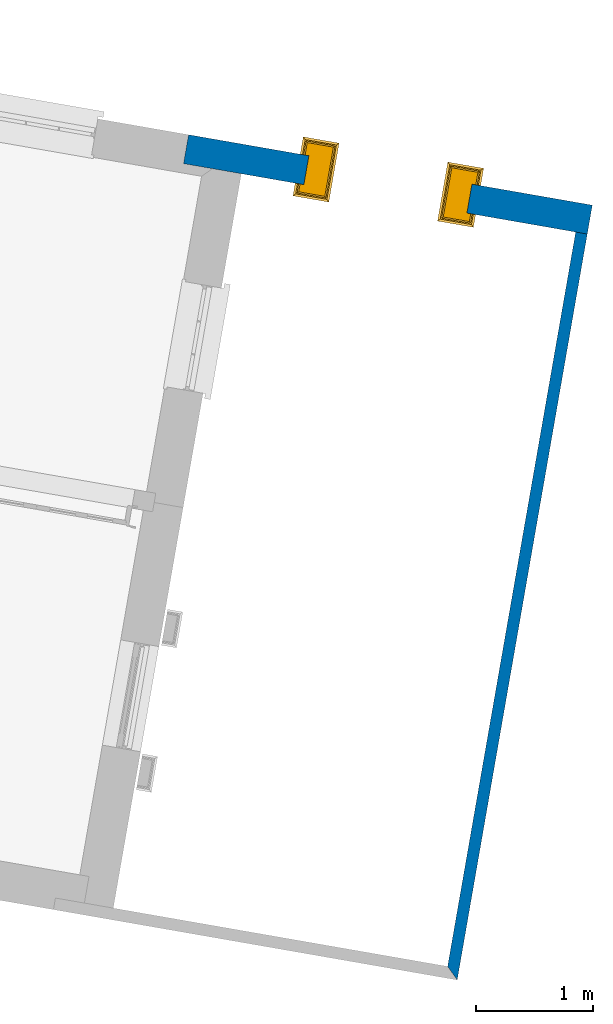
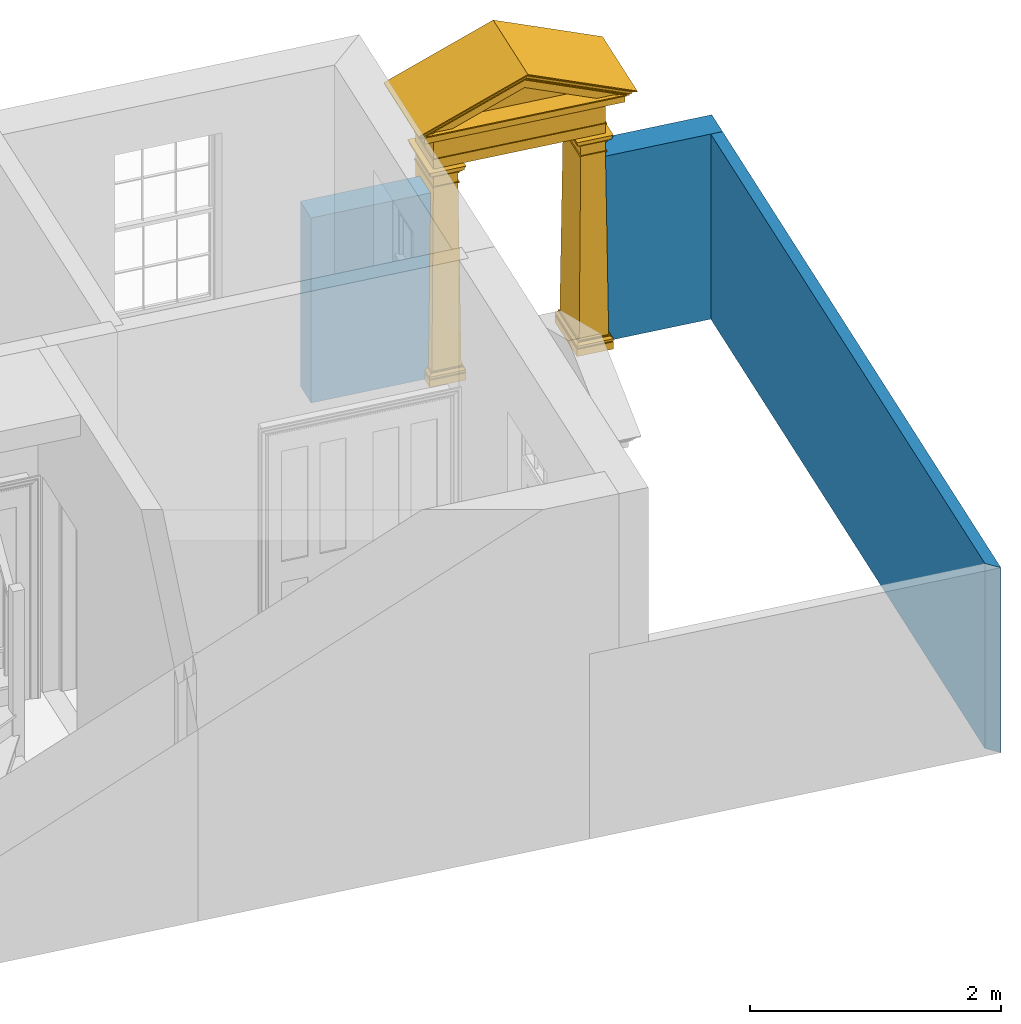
# One storey, part 5 of 6: 2 walls, 1 door, 1 opening.
"""IFC4 building model written with IfcOpenShell, lengths in metres."""

from ifc_helpers import new_model, si_unit, frame, origin, origin_with_axes, place, context, subcontext, project, spatial, polyline, outline, extrude, faceted_brep, source, transform, mapped, material, layer, layer_set, layer_usage, type_object, type_shapes, element, fill, save


model = new_model("IFC4")

# Units and contexts
model_context = context("Model", 3, world=origin_with_axes())
body_context = subcontext(model_context, "Body", "Model", "MODEL_VIEW")
ifc_project = project(units=[si_unit("PLANEANGLEUNIT", "RADIAN"), si_unit("MASSUNIT", "GRAM", prefix="KILO"), si_unit("FORCEUNIT", "NEWTON", prefix="KILO"), si_unit("LENGTHUNIT", "METRE"), si_unit("AREAUNIT", "SQUARE_METRE"), si_unit("VOLUMEUNIT", "CUBIC_METRE")], contexts=[model_context, model_context])

# Sites, building, storey
site_1_placement = place(None, origin_with_axes())
site_1 = spatial("IfcSite", under=ifc_project, at=site_1_placement, Name="Tamar")
site_2_placement = place(site_1_placement, origin_with_axes())
site_2 = spatial("IfcSite", under=site_1, at=site_2_placement, Name="Site plot-27", CompositionType="ELEMENT")
building_placement = place(None, origin_with_axes())
building = spatial("IfcBuilding", under=site_2, at=building_placement, Name="Building plot-27", CompositionType="ELEMENT")
storey_placement = place(None, frame((0.0, 0.0, 26.0), z_axis=(0.0, 0.0, 1.0), x_axis=(1.0, 0.0, 0.0)))
storey = spatial("IfcBuildingStorey", under=building, at=storey_placement, Name="plot-27 0", CompositionType="ELEMENT", Elevation=26.0)

# Wall
ifc_material_1 = material(Name="Masonry")
ifc_layer_1 = layer(ifc_material_1, 0.1, ventilated=False)
ifc_layer_set_1 = layer_set([ifc_layer_1], Name="fence_-0.15_0.25")
ifc_layer_usage_1 = layer_usage(ifc_layer_set_1, "AXIS2", "POSITIVE", -0.25)
wall_type_1 = type_object("IfcWallType", Name="fence_-0.15_0.25", PredefinedType="SOLIDWALL", material=ifc_layer_set_1)
wall_1_placement = place(storey_placement, frame((299.577726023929, 267.739716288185, 0.0), z_axis=(0.0, 0.0, 1.0), x_axis=(0.171788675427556, 0.985133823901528, 0.0)))
element("IfcWall", 1, at=wall_1_placement, inside=storey, type_object=wall_type_1, material=ifc_layer_usage_1, Name="fence", context=body_context, shape_type="SweptSolid", body=[
    extrude(outline(polyline([(-0.149999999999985, -0.150000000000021), (-0.25000000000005, -0.250000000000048), (6.45068539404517, -0.249999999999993), (6.45068539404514, -0.149999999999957), (-0.149999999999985, -0.150000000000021)])), origin_with_axes(), (0.0, 0.0, 1.0), 1.8),
])

# Wall, opening, door
ifc_material_2 = material(Name="Masonry")
ifc_layer_2 = layer(ifc_material_2, 0.25, ventilated=False)
ifc_layer_set_2 = layer_set([ifc_layer_2], Name="fence_0_0.25")
ifc_layer_usage_2 = layer_usage(ifc_layer_set_2, "AXIS2", "POSITIVE", -0.25)
wall_type_2 = type_object("IfcWallType", Name="fence_0_0.25", PredefinedType="SOLIDWALL", material=ifc_layer_set_2)
wall_2_placement = place(storey_placement, frame((300.642933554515, 273.848221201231, 0.0), z_axis=(0.0, 0.0, 1.0), x_axis=(-0.985133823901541, 0.171788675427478, 0.0)))
wall_2 = element("IfcWall", 2, at=wall_2_placement, inside=storey, type_object=wall_type_2, material=ifc_layer_usage_2, Name="fence", context=body_context, shape_type="SweptSolid", body=[
    extrude(outline(polyline([(-0.250000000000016, -2.58412912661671e-15), (-0.250000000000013, -0.250000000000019), (3.24149931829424, -0.250000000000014), (3.24149931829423, 2.87902974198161e-15), (-0.250000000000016, -2.58412912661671e-15)])), origin_with_axes(), (0.0, 0.0, 1.0), 1.8),
])
opening_placement = place(wall_2_placement, frame((0.790749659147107, 0.0, -0.0100000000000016)))
opening = element("IfcOpeningElement", 3, at=opening_placement, cuts=wall_2, Name="My Opening", ObjectType="Opening", context=body_context, shape_type="SweptSolid", body=[
    extrude(outline(polyline([(0.0, -0.269999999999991), (1.40999999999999, -0.269999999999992), (1.41000000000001, 1.01999999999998), (1.89848137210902e-14, 1.01999999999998), (0.0, -0.269999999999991)])), origin_with_axes(), (0.0, 0.0, 1.0), 1.81),
])
door_type = type_object("IfcDoorType", Name="gate", OperationType="SINGLE_SWING_LEFT", PredefinedType="NOTDEFINED")
shared_shape = source(origin(), body_context, "Body", "Brep", [
    faceted_brep([(1.565, 0.25, 2.5), (1.565, -0.21, 2.5), (1.565, -0.21, 2.49), (1.565, 0.25, 2.49), (1.445, -0.09, 2.01), (1.215, -0.09, 2.01), (1.215, -0.09, 2.0), (1.445, -0.09, 2.0), (-0.035, -0.09, 2.180001), (-0.025, -0.08, 2.180001), (-0.025, 0.25, 2.180001), (-0.035, 0.25, 2.180001), (-0.025, -0.08, 2.170001), (-0.035, -0.09, 2.170001), (-0.035, 0.25, 2.170001), (-0.025, 0.25, 2.170001), (1.445, -0.09, 2.180001), (1.435, -0.08, 2.180001), (-0.025, -0.08, 2.37), (-0.025, 0.25, 2.37), (1.435, -0.08, 2.170001), (1.445, -0.09, 2.170001), (-0.025, -0.08, 2.08), (-0.025, 0.25, 2.08), (1.445, 0.25, 2.180001), (1.435, 0.25, 2.180001), (1.435, -0.08, 2.37), (-0.035, -0.09, 2.37), (-0.035, 0.25, 2.37), (1.435, 0.25, 2.37), (1.445, 0.25, 2.170001), (1.435, 0.25, 2.170001), (0.235, -0.08, 2.08), (0.235, 0.25, 2.08), (1.175, 0.25, 2.08), (1.175, -0.08, 2.08), (-0.075, 0.25, 2.08), (-0.075, -0.13, 2.08), (1.445, -0.09, 2.37), (-0.035, -0.09, 2.380001), (-0.035, 0.25, 2.380001), (1.445, 0.25, 2.37), (1.435, -0.08, 2.08), (1.435, 0.25, 2.08), (0.235, 0.38, 2.07), (0.235, 0.38, 2.08), (0.235, 0.33, 2.08), (0.235, -0.13, 2.08), (-0.075, 0.25, 2.07), (-0.075, -0.13, 2.07), (1.445, -0.09, 2.380001), (-0.045, -0.1, 2.39), (-0.045, 0.25, 2.39), (1.455, 0.25, 2.39), (1.455, -0.1, 2.39), (1.445, 0.25, 2.380001), (1.485, -0.13, 2.08), (1.485, 0.25, 2.08), (0.235, -0.13, 2.07), (1.175, -0.13, 2.08), (-0.065, 0.25, 2.07), (-0.065, -0.12, 2.07), (-0.055, -0.11, 2.39), (-0.055, 0.25, 2.39), (1.465, 0.25, 2.39), (1.465, -0.11, 2.39), (1.485, 0.25, 2.07), (1.485, -0.13, 2.07), (0.225, 0.25, 2.07), (0.235, 0.25, 2.07), (0.225, -0.12, 2.07), (-0.065, 0.25, 2.04), (-0.065, -0.12, 2.04), (1.475, 0.25, 2.07), (1.475, -0.12, 2.07), (1.175, 0.25, 2.07), (1.185, 0.25, 2.07), (1.185, -0.12, 2.07), (1.175, -0.13, 2.07), (1.175, 0.33, 2.08), (1.175, 0.38, 2.07), (-0.055, -0.11, 2.4), (-0.055, 0.25, 2.4), (1.465, 0.25, 2.4), (1.465, -0.11, 2.4), (0.225, 0.25, 2.04), (0.225, -0.12, 2.04), (-0.055, 0.25, 2.04), (-0.055, -0.11, 2.04), (1.475, 0.25, 2.04), (1.475, -0.12, 2.04), (1.185, 0.25, 2.04), (1.195, 0.25, 2.04), (1.195, -0.11, 2.04), (1.185, -0.12, 2.04), (-0.065, -0.12, 2.4), (-0.065, 0.25, 2.4), (-0.085, -0.14, 2.42), (-0.085, 0.25, 2.42), (-0.085, -0.14, 2.43), (-0.085, 0.25, 2.43), (1.495, 0.25, 2.43), (1.495, -0.14, 2.43), (1.495, -0.14, 2.42), (1.495, 0.25, 2.42), (1.475, 0.25, 2.4), (1.475, -0.12, 2.4), (0.215, 0.25, 2.04), (0.215, -0.11, 2.04), (-0.055, 0.25, 2.03), (-0.055, -0.11, 2.03), (0.215, 0.25, 2.03), (0.215, -0.11, 2.03), (1.465, 0.25, 2.04), (1.465, -0.11, 2.04), (1.195, 0.25, 2.03), (1.195, -0.11, 2.03), (1.465, 0.25, 2.03), (1.465, -0.11, 2.03), (-0.145, -0.2, 2.43), (-0.145, 0.25, 2.43), (1.555, 0.25, 2.43), (1.555, -0.2, 2.43), (-0.035, 0.25, 2.01), (-0.035, -0.09, 2.01), (0.195, 0.25, 2.01), (0.195, -0.09, 2.01), (1.215, 0.25, 2.01), (1.445, 0.25, 2.01), (-0.145, -0.2, 2.49), (-0.145, 0.25, 2.49), (1.555, 0.25, 2.49), (1.555, -0.2, 2.49), (-0.035, 0.25, 2.0), (-0.035, -0.09, 2.0), (0.195, 0.25, 2.0), (0.195, -0.09, 2.0), (1.215, 0.25, 2.0), (1.445, 0.25, 2.0), (-0.155, -0.21, 2.49), (-0.155, 0.25, 2.49), (-0.155, -0.21, 2.5), (-0.155, 0.25, 2.5), (-0.165, -0.22, 2.51), (-0.165, 0.25, 2.51), (1.575, 0.25, 2.51), (1.575, -0.22, 2.51), (-0.025, -0.08, 2.0), (-0.025, 0.25, 2.0), (0.185, -0.08, 2.0), (0.185, 0.25, 2.0), (-0.025, 0.25, 1.91), (-0.025, -0.08, 1.91), (0.185, 0.25, 1.91), (0.185, -0.08, 1.91), (1.225, 0.25, 2.0), (1.225, -0.08, 2.0), (1.435, -0.08, 2.0), (1.435, 0.25, 2.0), (1.435, 0.25, 1.91), (1.435, -0.08, 1.91), (1.225, 0.25, 1.91), (1.225, -0.08, 1.91), (-0.175, -0.23, 2.51), (-0.175, 0.25, 2.51), (1.585, 0.25, 2.51), (1.585, -0.23, 2.51), (-0.035, 0.25, 1.91), (-0.035, -0.09, 1.91), (0.195, -0.09, 1.91), (0.195, 0.25, 1.91), (1.445, -0.09, 1.91), (1.445, 0.25, 1.91), (1.215, -0.09, 1.91), (1.215, 0.25, 1.91), (-0.175, -0.23, 2.52), (-0.175, 0.25, 2.52), (1.585, 0.25, 2.52), (1.585, -0.23, 2.52), (-0.035, 0.25, 1.9), (-0.035, -0.09, 1.9), (0.195, 0.25, 1.9), (0.195, -0.09, 1.9), (-0.025, -0.08, 1.9), (-0.025, 0.25, 1.9), (0.185, -0.08, 1.9), (0.185, 0.25, 1.9), (-0.045, 0.25, 0.13), (-0.045, -0.1, 0.13), (0.205, 0.25, 0.13), (0.205, -0.1, 0.13), (1.445, -0.09, 1.9), (1.445, 0.25, 1.9), (1.435, -0.08, 1.9), (1.435, 0.25, 1.9), (1.455, -0.1, 0.13), (1.455, 0.25, 0.13), (1.225, 0.25, 1.9), (1.205, 0.25, 0.13), (1.205, -0.1, 0.13), (1.225, -0.08, 1.9), (1.215, -0.09, 1.9), (1.215, 0.25, 1.9), (-0.185, -0.24, 2.526), (-0.185, 0.25, 2.526), (-0.150858, -0.23, 2.52), (1.560858, -0.23, 2.52), (-0.195, -0.25, 2.551001), (-0.195, 0.25, 2.551001), (-0.223, 0.25, 2.561001), (-0.223, -0.278, 2.561001), (1.633, -0.278, 2.561001), (1.605, -0.25, 2.551001), (1.605, 0.25, 2.551001), (1.633, 0.25, 2.561001), (1.595, 0.25, 2.526), (1.595, -0.24, 2.526), (-0.055, 0.25, 0.13), (-0.055, -0.11, 0.13), (0.215, 0.25, 0.13), (0.215, -0.11, 0.13), (1.465, -0.11, 0.13), (1.465, 0.25, 0.13), (1.195, 0.25, 0.13), (1.195, -0.11, 0.13), (0.705, -0.23, 2.884508), (0.705, -0.24, 2.89465), (0.705, -0.23, 2.874508), (1.486538, -0.21, 2.522499), (-0.076538, -0.21, 2.522499), (0.705, -0.25, 2.923792), (0.705, -0.278, 2.945389), (-0.223, -0.278, 2.571001), (-0.223, 0.25, 2.571001), (1.633, 0.25, 2.571001), (1.633, -0.278, 2.571001), (-0.055, 0.25, 0.12), (-0.055, -0.11, 0.12), (0.215, 0.25, 0.12), (0.215, -0.11, 0.12), (-0.075, 0.25, 0.1), (-0.075, -0.13, 0.1), (0.235, 0.25, 0.1), (0.235, -0.13, 0.1), (1.465, 0.25, 0.12), (1.465, -0.11, 0.12), (1.485, 0.25, 0.1), (1.485, -0.13, 0.1), (1.195, 0.25, 0.12), (1.175, 0.25, 0.1), (1.175, -0.13, 0.1), (1.195, -0.11, 0.12), (-0.13784, -0.22, 2.52125), (0.705, -0.22, 2.870365), (1.51068, -0.21, 2.522499), (1.54784, -0.22, 2.52125), (1.316733, -0.2, 2.523749), (0.093267, -0.2, 2.523749), (-0.10068, -0.21, 2.522499), (0.705, -0.278, 2.955389), (0.705, 0.25, 2.955389), (-0.075, 0.25, 0.08), (-0.075, -0.13, 0.08), (0.235, 0.25, 0.08), (0.235, -0.13, 0.08), (1.485, -0.13, 0.08), (1.485, 0.25, 0.08), (1.175, 0.25, 0.08), (1.175, -0.13, 0.08), (0.705, -0.21, 2.856223), (0.705, -0.21, 2.846222), (1.272495, -0.14, 2.53125), (0.137505, -0.14, 2.53125), (-0.06352, -0.2, 2.523749), (1.47352, -0.2, 2.523749), (-0.065, 0.25, 0.07), (-0.065, -0.12, 0.07), (0.225, 0.25, 0.07), (0.225, -0.12, 0.07), (1.475, 0.25, 0.07), (1.475, -0.12, 0.07), (1.185, 0.25, 0.07), (1.185, -0.12, 0.07), (0.705, -0.2, 2.842082), (1.298626, -0.14, 2.53125), (1.214197, -0.12, 2.533749), (0.195803, -0.12, 2.533749), (0.111374, -0.14, 2.53125), (0.705, -0.2, 2.777137), (-0.075, 0.25, 0.07), (-0.075, -0.13, 0.07), (0.235, -0.13, 0.07), (0.235, 0.25, 0.07), (0.235, -0.13, 0.0), (-0.075, -0.13, 0.0), (-0.075, 0.25, 0.0), (0.235, 0.25, 0.0), (1.485, -0.13, 0.07), (1.485, 0.25, 0.07), (1.485, -0.13, 0.0), (1.175, -0.13, 0.0), (1.175, 0.25, 0.0), (1.485, 0.25, 0.0), (1.175, -0.13, 0.07), (1.175, 0.25, 0.07), (0.705, -0.14, 2.766314), (0.705, -0.14, 2.777137), (0.705, -0.12, 2.744666), (1.185048, -0.11, 2.535), (0.224952, -0.11, 2.535), (0.705, -0.11, 2.744666), (1.211179, -0.11, 2.535), (1.12675, -0.09, 2.537501), (0.28325, -0.09, 2.537501), (0.198821, -0.11, 2.535), (0.705, -0.11, 2.733843), (1.152881, -0.09, 2.537501), (1.18203, -0.1, 2.536251), (0.286268, -0.08, 2.538751), (1.123732, -0.08, 2.538751), (0.22797, -0.1, 2.536251), (0.257119, -0.09, 2.537501), (0.705, -0.1, 2.733843), (0.705, -0.09, 2.712194), (0.705, -0.09, 2.723017), (0.705, -0.08, 2.712194), (-0.155, 0.46, 2.5), (-0.155, 0.46, 2.49), (-0.035, 0.34, 2.01), (0.195, 0.34, 2.01), (0.195, 0.34, 2.0), (-0.035, 0.34, 2.0), (1.445, 0.34, 2.180001), (1.435, 0.33, 2.180001), (1.435, 0.33, 2.170001), (1.445, 0.34, 2.170001), (-0.035, 0.34, 2.180001), (-0.025, 0.33, 2.180001), (1.435, 0.33, 2.37), (-0.025, 0.33, 2.170001), (-0.035, 0.34, 2.170001), (1.435, 0.33, 2.08), (-0.025, 0.33, 2.37), (1.445, 0.34, 2.37), (1.485, 0.38, 2.08), (-0.035, 0.34, 2.37), (1.445, 0.34, 2.380001), (-0.025, 0.33, 2.08), (1.175, 0.38, 2.08), (1.485, 0.38, 2.07), (-0.035, 0.34, 2.380001), (1.455, 0.35, 2.39), (-0.045, 0.35, 2.39), (-0.075, 0.38, 2.08), (1.475, 0.37, 2.07), (1.465, 0.36, 2.39), (-0.055, 0.36, 2.39), (-0.075, 0.38, 2.07), (1.185, 0.37, 2.07), (1.475, 0.37, 2.04), (-0.065, 0.37, 2.07), (0.225, 0.37, 2.07), (1.465, 0.36, 2.4), (-0.055, 0.36, 2.4), (1.185, 0.37, 2.04), (1.465, 0.36, 2.04), (-0.065, 0.37, 2.04), (0.215, 0.36, 2.04), (0.225, 0.37, 2.04), (1.475, 0.37, 2.4), (1.495, 0.39, 2.42), (1.495, 0.39, 2.43), (-0.085, 0.39, 2.43), (-0.085, 0.39, 2.42), (-0.065, 0.37, 2.4), (1.195, 0.36, 2.04), (1.465, 0.36, 2.03), (1.195, 0.36, 2.03), (-0.055, 0.36, 2.04), (0.215, 0.36, 2.03), (-0.055, 0.36, 2.03), (1.555, 0.45, 2.43), (-0.145, 0.45, 2.43), (1.445, 0.34, 2.01), (1.215, 0.34, 2.01), (1.555, 0.45, 2.49), (-0.145, 0.45, 2.49), (1.445, 0.34, 2.0), (1.215, 0.34, 2.0), (1.565, 0.46, 2.49), (1.565, 0.46, 2.5), (1.575, 0.47, 2.51), (-0.165, 0.47, 2.51), (1.435, 0.33, 2.0), (1.225, 0.33, 2.0), (1.435, 0.33, 1.91), (1.225, 0.33, 1.91), (0.185, 0.33, 2.0), (-0.025, 0.33, 2.0), (-0.025, 0.33, 1.91), (0.185, 0.33, 1.91), (1.585, 0.48, 2.51), (-0.175, 0.48, 2.51), (1.445, 0.34, 1.91), (1.215, 0.34, 1.91), (-0.035, 0.34, 1.91), (0.195, 0.34, 1.91), (1.585, 0.48, 2.52), (-0.175, 0.48, 2.52), (1.445, 0.34, 1.9), (1.215, 0.34, 1.9), (1.435, 0.33, 1.9), (1.225, 0.33, 1.9), (1.455, 0.35, 0.13), (1.205, 0.35, 0.13), (-0.035, 0.34, 1.9), (-0.025, 0.33, 1.9), (-0.045, 0.35, 0.13), (0.205, 0.35, 0.13), (0.185, 0.33, 1.9), (0.195, 0.34, 1.9), (1.595, 0.49, 2.526), (1.560858, 0.48, 2.52), (-0.150858, 0.48, 2.52), (1.605, 0.5, 2.551001), (1.633, 0.528, 2.561001), (-0.223, 0.528, 2.561001), (-0.195, 0.5, 2.551001), (-0.185, 0.49, 2.526), (1.465, 0.36, 0.13), (1.195, 0.36, 0.13), (-0.055, 0.36, 0.13), (0.215, 0.36, 0.13), (0.705, 0.48, 2.884508), (0.705, 0.49, 2.89465), (0.705, 0.48, 2.874508), (-0.076538, 0.46, 2.522499), (1.486538, 0.46, 2.522499), (0.705, 0.5, 2.923792), (0.705, 0.528, 2.945389), (1.633, 0.528, 2.571001), (-0.223, 0.528, 2.571001), (1.465, 0.36, 0.12), (1.195, 0.36, 0.12), (1.485, 0.38, 0.1), (1.175, 0.38, 0.1), (-0.055, 0.36, 0.12), (-0.075, 0.38, 0.1), (0.235, 0.38, 0.1), (0.215, 0.36, 0.12), (1.54784, 0.47, 2.52125), (0.705, 0.47, 2.870365), (-0.10068, 0.46, 2.522499), (-0.13784, 0.47, 2.52125), (0.093267, 0.45, 2.523749), (1.316733, 0.45, 2.523749), (1.51068, 0.46, 2.522499), (0.705, 0.528, 2.955389), (1.485, 0.38, 0.08), (1.175, 0.38, 0.08), (-0.075, 0.38, 0.08), (0.235, 0.38, 0.08), (0.705, 0.46, 2.856223), (0.705, 0.46, 2.846222), (0.137505, 0.39, 2.53125), (1.272495, 0.39, 2.53125), (1.47352, 0.45, 2.523749), (-0.06352, 0.45, 2.523749), (1.475, 0.37, 0.07), (1.185, 0.37, 0.07), (-0.065, 0.37, 0.07), (0.225, 0.37, 0.07), (0.705, 0.45, 2.842082), (0.111374, 0.39, 2.53125), (0.195803, 0.37, 2.533749), (1.214197, 0.37, 2.533749), (1.298626, 0.39, 2.53125), (0.705, 0.45, 2.777137), (1.485, 0.38, 0.07), (1.175, 0.38, 0.07), (1.175, 0.38, 0.0), (1.485, 0.38, 0.0), (-0.075, 0.38, 0.07), (-0.075, 0.38, 0.0), (0.235, 0.38, 0.0), (0.235, 0.38, 0.07), (0.705, 0.39, 2.766314), (0.705, 0.39, 2.777137), (0.705, 0.37, 2.744666), (0.224952, 0.36, 2.535), (1.185048, 0.36, 2.535), (0.705, 0.36, 2.744666), (0.198821, 0.36, 2.535), (0.28325, 0.34, 2.537501), (1.12675, 0.34, 2.537501), (1.211179, 0.36, 2.535), (0.705, 0.36, 2.733843), (0.257119, 0.34, 2.537501), (0.22797, 0.35, 2.536251), (1.123732, 0.33, 2.538751), (0.286268, 0.33, 2.538751), (1.18203, 0.35, 2.536251), (1.152881, 0.34, 2.537501), (0.705, 0.35, 2.733843), (0.705, 0.34, 2.723017), (0.705, 0.34, 2.712194), (0.705, 0.33, 2.712194)], [[[0, 1, 2, 3]], [[4, 5, 6, 7]], [[8, 9, 10, 11]], [[12, 13, 14, 15]], [[13, 8, 11, 14]], [[9, 8, 16, 17]], [[9, 18, 19, 10]], [[13, 12, 20, 21]], [[22, 12, 15, 23]], [[8, 13, 21, 16]], [[17, 16, 24, 25]], [[18, 9, 17, 26]], [[27, 28, 19, 18]], [[26, 17, 25, 29]], [[16, 21, 30, 24]], [[21, 20, 31, 30]], [[32, 33, 34, 35]], [[12, 32, 35, 20]], [[12, 22, 32]], [[22, 23, 36, 37]], [[27, 18, 26, 38]], [[39, 40, 28, 27]], [[41, 38, 26, 29]], [[20, 42, 43, 31]], [[44, 45, 46]], [[42, 20, 35]], [[37, 47, 32, 22]], [[36, 48, 49, 37]], [[39, 27, 38, 50]], [[51, 52, 40, 39]], [[53, 54, 50, 55]], [[55, 50, 38, 41]], [[43, 42, 56, 57]], [[32, 47, 58]], [[59, 56, 42, 35]], [[58, 47, 37, 49]], [[48, 60, 61, 49]], [[51, 39, 50, 54]], [[62, 63, 52, 51]], [[64, 65, 54, 53]], [[66, 57, 56, 67]], [[68, 69, 58, 70]], [[60, 71, 72, 61]], [[73, 66, 67, 74]], [[75, 76, 77, 78]], [[34, 79, 80, 75]], [[59, 78, 67, 56]], [[61, 70, 58, 49]], [[62, 51, 54, 65]], [[81, 82, 63, 62]], [[83, 84, 65, 64]], [[85, 68, 70, 86]], [[71, 87, 88, 72]], [[86, 70, 61, 72]], [[77, 74, 67, 78]], [[89, 73, 74, 90]], [[91, 92, 93, 94]], [[76, 91, 94, 77]], [[81, 62, 65, 84]], [[95, 96, 82, 81]], [[97, 98, 96, 95]], [[99, 100, 98, 97]], [[101, 102, 103, 104]], [[105, 106, 84, 83]], [[104, 103, 106, 105]], [[107, 85, 86, 108]], [[87, 109, 110, 88]], [[88, 108, 86, 72]], [[111, 107, 108, 112]], [[77, 94, 90, 74]], [[113, 89, 90, 114]], [[92, 115, 116, 93]], [[93, 114, 90, 94]], [[117, 113, 114, 118]], [[95, 81, 84, 106]], [[97, 95, 106, 103]], [[119, 120, 100, 99]], [[99, 97, 103, 102]], [[121, 122, 102, 101]], [[109, 123, 124, 110]], [[112, 108, 88, 110]], [[125, 111, 112, 126]], [[115, 127, 5, 116]], [[93, 116, 118, 114]], [[128, 117, 118, 4]], [[129, 130, 120, 119]], [[119, 99, 102, 122]], [[131, 132, 122, 121]], [[123, 133, 134, 124]], [[110, 124, 126, 112]], [[135, 125, 126, 136]], [[127, 137, 6, 5]], [[4, 118, 116, 5]], [[138, 128, 4, 7]], [[139, 140, 130, 129]], [[129, 119, 122, 132]], [[141, 142, 140, 139]], [[143, 144, 142, 141]], [[145, 146, 1, 0]], [[3, 2, 132, 131]], [[147, 134, 133, 148]], [[126, 124, 134, 136]], [[135, 136, 149, 150]], [[148, 151, 152, 147]], [[153, 150, 149, 154]], [[6, 137, 155, 156]], [[7, 157, 158, 138]], [[159, 158, 157, 160]], [[155, 161, 162, 156]], [[139, 129, 132, 2]], [[141, 139, 2, 1]], [[163, 164, 144, 143]], [[143, 141, 1, 146]], [[165, 166, 146, 145]], [[147, 149, 136, 134]], [[167, 168, 152, 151]], [[147, 152, 154, 149]], [[154, 169, 170, 153]], [[156, 157, 7, 6]], [[160, 157, 156, 162]], [[171, 172, 159, 160]], [[173, 162, 161, 174]], [[175, 176, 164, 163]], [[163, 143, 146, 166]], [[177, 178, 166, 165]], [[179, 180, 168, 167]], [[154, 152, 168, 169]], [[181, 170, 169, 182]], [[183, 180, 179, 184]], [[181, 182, 185, 186]], [[184, 187, 188, 183]], [[189, 186, 185, 190]], [[160, 162, 173, 171]], [[191, 192, 172, 171]], [[191, 193, 194, 192]], [[193, 195, 196, 194]], [[197, 198, 199, 200]], [[201, 202, 197, 200]], [[174, 202, 201, 173]], [[203, 204, 176, 175]], [[175, 163, 205]], [[163, 166, 206, 205]], [[207, 208, 204, 203]], [[209, 208, 207, 210]], [[211, 212, 213, 214]], [[215, 216, 178, 177]], [[213, 212, 216, 215]], [[178, 206, 166]], [[180, 182, 169, 168]], [[183, 185, 182, 180]], [[187, 217, 218, 188]], [[183, 188, 190, 185]], [[219, 189, 190, 220]], [[201, 191, 171, 173]], [[200, 193, 191, 201]], [[195, 193, 200, 199]], [[195, 221, 222, 196]], [[198, 223, 224, 199]], [[175, 225, 226, 203]], [[225, 175, 205, 227]], [[205, 206, 228, 229]], [[203, 226, 230, 207]], [[207, 230, 231, 210]], [[232, 233, 209, 210]], [[234, 235, 211, 214]], [[231, 230, 212, 211]], [[216, 226, 225, 178]], [[212, 230, 226, 216]], [[227, 206, 178, 225]], [[217, 236, 237, 218]], [[220, 190, 188, 218]], [[238, 219, 220, 239]], [[236, 240, 241, 237]], [[242, 238, 239, 243]], [[221, 195, 199, 224]], [[244, 222, 221, 245]], [[246, 244, 245, 247]], [[248, 249, 250, 251]], [[223, 248, 251, 224]], [[227, 205, 252, 253]], [[254, 228, 206, 255]], [[256, 257, 229, 228]], [[252, 205, 229, 258]], [[231, 259, 232, 210]], [[260, 233, 232, 259]], [[234, 260, 259, 235]], [[259, 231, 211, 235]], [[253, 255, 206, 227]], [[239, 220, 218, 237]], [[261, 262, 241, 240]], [[243, 239, 237, 241]], [[263, 242, 243, 264]], [[224, 251, 245, 221]], [[251, 250, 247, 245]], [[265, 266, 246, 247]], [[249, 267, 268, 250]], [[253, 252, 258, 269]], [[270, 228, 254, 269]], [[269, 254, 255, 253]], [[256, 271, 272, 257]], [[273, 229, 257]], [[274, 256, 228]], [[269, 258, 229, 270]], [[261, 275, 276, 262]], [[264, 243, 241, 262]], [[277, 263, 264, 278]], [[250, 268, 265, 247]], [[279, 266, 265, 280]], [[267, 281, 282, 268]], [[283, 274, 228, 270]], [[284, 271, 256]], [[271, 285, 286, 272]], [[287, 257, 272]], [[270, 229, 273, 283]], [[283, 273, 257, 288]], [[288, 256, 274, 283]], [[289, 290, 276, 275]], [[262, 276, 278, 264]], [[278, 291, 292, 277]], [[293, 294, 295, 296]], [[280, 265, 268, 282]], [[297, 298, 279, 280]], [[299, 300, 301, 302]], [[303, 282, 281, 304]], [[305, 271, 284, 306]], [[306, 284, 256, 288]], [[307, 285, 271, 305]], [[285, 308, 309, 286]], [[305, 272, 286, 307]], [[288, 257, 287, 306]], [[306, 287, 272, 305]], [[289, 295, 294, 290]], [[278, 276, 290, 291]], [[296, 292, 291, 293]], [[290, 294, 293, 291]], [[280, 282, 303, 297]], [[302, 298, 297, 299]], [[299, 297, 303, 300]], [[304, 301, 300, 303]], [[310, 311, 285, 307]], [[311, 308, 285]], [[308, 312, 313, 309]], [[314, 286, 309]], [[307, 286, 314, 310]], [[315, 308, 311, 310]], [[316, 312, 308, 317]], [[318, 313, 312, 319]], [[320, 309, 313, 321]], [[310, 314, 309, 315]], [[322, 317, 308, 315]], [[323, 312, 316, 324]], [[324, 316, 317, 322]], [[323, 313, 318, 325]], [[325, 319, 312, 323]], [[325, 318, 319]], [[315, 309, 320, 322]], [[324, 321, 313, 323]], [[322, 320, 321, 324]], [[142, 326, 327, 140]], [[328, 329, 330, 331]], [[332, 333, 25, 24]], [[334, 335, 30, 31]], [[335, 332, 24, 30]], [[333, 332, 336, 337]], [[333, 338, 29, 25]], [[335, 334, 339, 340]], [[341, 334, 31, 43]], [[332, 335, 340, 336]], [[337, 336, 11, 10]], [[338, 333, 337, 342]], [[343, 41, 29, 338]], [[342, 337, 10, 19]], [[336, 340, 14, 11]], [[340, 339, 15, 14]], [[79, 34, 33, 46]], [[334, 79, 46, 339]], [[334, 341, 79]], [[341, 43, 57, 344]], [[343, 338, 342, 345]], [[346, 55, 41, 343]], [[28, 345, 342, 19]], [[339, 347, 23, 15]], [[35, 34, 75, 78]], [[33, 32, 58, 69]], [[347, 339, 46]], [[344, 348, 79, 341]], [[57, 66, 349, 344]], [[346, 343, 345, 350]], [[351, 53, 55, 346]], [[52, 352, 350, 40]], [[40, 350, 345, 28]], [[23, 347, 353, 36]], [[79, 348, 80]], [[45, 353, 347, 46]], [[80, 348, 344, 349]], [[66, 73, 354, 349]], [[351, 346, 350, 352]], [[355, 64, 53, 351]], [[63, 356, 352, 52]], [[48, 36, 353, 357]], [[76, 75, 80, 358]], [[73, 89, 359, 354]], [[60, 48, 357, 360]], [[69, 68, 361, 44]], [[46, 33, 69, 44]], [[45, 44, 357, 353]], [[354, 358, 80, 349]], [[355, 351, 352, 356]], [[362, 83, 64, 355]], [[82, 363, 356, 63]], [[91, 76, 358, 364]], [[89, 113, 365, 359]], [[364, 358, 354, 359]], [[361, 360, 357, 44]], [[71, 60, 360, 366]], [[85, 107, 367, 368]], [[68, 85, 368, 361]], [[362, 355, 356, 363]], [[369, 105, 83, 362]], [[370, 104, 105, 369]], [[371, 101, 104, 370]], [[100, 372, 373, 98]], [[96, 374, 363, 82]], [[98, 373, 374, 96]], [[92, 91, 364, 375]], [[113, 117, 376, 365]], [[365, 375, 364, 359]], [[115, 92, 375, 377]], [[361, 368, 366, 360]], [[87, 71, 366, 378]], [[107, 111, 379, 367]], [[367, 378, 366, 368]], [[109, 87, 378, 380]], [[369, 362, 363, 374]], [[370, 369, 374, 373]], [[381, 121, 101, 371]], [[371, 370, 373, 372]], [[120, 382, 372, 100]], [[117, 128, 383, 376]], [[377, 375, 365, 376]], [[127, 115, 377, 384]], [[111, 125, 329, 379]], [[367, 379, 380, 378]], [[123, 109, 380, 328]], [[385, 131, 121, 381]], [[381, 371, 372, 382]], [[130, 386, 382, 120]], [[128, 138, 387, 383]], [[376, 383, 384, 377]], [[137, 127, 384, 388]], [[125, 135, 330, 329]], [[328, 380, 379, 329]], [[133, 123, 328, 331]], [[389, 3, 131, 385]], [[385, 381, 382, 386]], [[390, 0, 3, 389]], [[391, 145, 0, 390]], [[144, 392, 326, 142]], [[140, 327, 386, 130]], [[393, 387, 138, 158]], [[384, 383, 387, 388]], [[137, 388, 394, 155]], [[158, 159, 395, 393]], [[161, 155, 394, 396]], [[330, 135, 150, 397]], [[331, 398, 148, 133]], [[151, 148, 398, 399]], [[150, 153, 400, 397]], [[389, 385, 386, 327]], [[390, 389, 327, 326]], [[401, 165, 145, 391]], [[391, 390, 326, 392]], [[164, 402, 392, 144]], [[393, 394, 388, 387]], [[172, 403, 395, 159]], [[393, 395, 396, 394]], [[396, 404, 174, 161]], [[397, 398, 331, 330]], [[399, 398, 397, 400]], [[405, 167, 151, 399]], [[406, 400, 153, 170]], [[407, 177, 165, 401]], [[401, 391, 392, 402]], [[176, 408, 402, 164]], [[192, 409, 403, 172]], [[396, 395, 403, 404]], [[202, 174, 404, 410]], [[411, 409, 192, 194]], [[202, 410, 412, 197]], [[194, 196, 413, 411]], [[198, 197, 412, 414]], [[399, 400, 406, 405]], [[415, 179, 167, 405]], [[415, 416, 184, 179]], [[416, 417, 187, 184]], [[186, 189, 418, 419]], [[420, 181, 186, 419]], [[170, 181, 420, 406]], [[421, 215, 177, 407]], [[407, 401, 422]], [[401, 402, 423, 422]], [[424, 213, 215, 421]], [[214, 213, 424, 425]], [[426, 427, 208, 209]], [[204, 428, 408, 176]], [[208, 427, 428, 204]], [[408, 423, 402]], [[409, 410, 404, 403]], [[411, 412, 410, 409]], [[196, 222, 429, 413]], [[411, 413, 414, 412]], [[223, 198, 414, 430]], [[420, 415, 405, 406]], [[419, 416, 415, 420]], [[417, 416, 419, 418]], [[417, 431, 217, 187]], [[189, 219, 432, 418]], [[407, 433, 434, 421]], [[433, 407, 422, 435]], [[422, 423, 436, 437]], [[421, 434, 438, 424]], [[424, 438, 439, 425]], [[440, 234, 214, 425]], [[233, 441, 426, 209]], [[439, 438, 427, 426]], [[428, 434, 433, 408]], [[427, 438, 434, 428]], [[435, 423, 408, 433]], [[222, 244, 442, 429]], [[430, 414, 413, 429]], [[248, 223, 430, 443]], [[244, 246, 444, 442]], [[249, 248, 443, 445]], [[431, 417, 418, 432]], [[236, 217, 431, 446]], [[240, 236, 446, 447]], [[238, 242, 448, 449]], [[219, 238, 449, 432]], [[435, 422, 450, 451]], [[452, 436, 423, 453]], [[454, 455, 437, 436]], [[450, 422, 437, 456]], [[439, 457, 440, 425]], [[260, 234, 440, 457]], [[233, 260, 457, 441]], [[457, 439, 426, 441]], [[451, 453, 423, 435]], [[443, 430, 429, 442]], [[266, 458, 444, 246]], [[445, 443, 442, 444]], [[267, 249, 445, 459]], [[432, 449, 446, 431]], [[449, 448, 447, 446]], [[460, 261, 240, 447]], [[242, 263, 461, 448]], [[451, 450, 456, 462]], [[463, 436, 452, 462]], [[462, 452, 453, 451]], [[454, 464, 465, 455]], [[466, 437, 455]], [[467, 454, 436]], [[462, 456, 437, 463]], [[266, 279, 468, 458]], [[459, 445, 444, 458]], [[281, 267, 459, 469]], [[448, 461, 460, 447]], [[275, 261, 460, 470]], [[263, 277, 471, 461]], [[472, 467, 436, 463]], [[473, 464, 454]], [[464, 474, 475, 465]], [[476, 455, 465]], [[463, 437, 466, 472]], [[472, 466, 455, 477]], [[477, 454, 467, 472]], [[298, 478, 468, 279]], [[458, 468, 469, 459]], [[469, 479, 304, 281]], [[480, 481, 302, 301]], [[470, 460, 461, 471]], [[482, 289, 275, 470]], [[483, 484, 296, 295]], [[485, 471, 277, 292]], [[486, 464, 473, 487]], [[487, 473, 454, 477]], [[488, 474, 464, 486]], [[474, 489, 490, 475]], [[486, 465, 475, 488]], [[477, 455, 476, 487]], [[487, 476, 465, 486]], [[298, 302, 481, 478]], [[469, 468, 478, 479]], [[301, 304, 479, 480]], [[478, 481, 480, 479]], [[470, 471, 485, 482]], [[295, 289, 482, 483]], [[483, 482, 485, 484]], [[292, 296, 484, 485]], [[491, 492, 474, 488]], [[492, 489, 474]], [[489, 493, 494, 490]], [[495, 475, 490]], [[488, 475, 495, 491]], [[496, 489, 492, 491]], [[497, 493, 489, 498]], [[499, 494, 493, 500]], [[501, 490, 494, 502]], [[491, 495, 490, 496]], [[503, 498, 489, 496]], [[497, 504, 505, 493]], [[504, 497, 498, 503]], [[505, 494, 499, 506]], [[506, 500, 493, 505]], [[506, 499, 500]], [[496, 490, 501, 503]], [[504, 502, 494, 505]], [[503, 501, 502, 504]], [[78, 59, 35]]]),
])
type_shapes(door_type, [shared_shape])
door_placement = place(storey_placement, frame((299.910322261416, 274.250049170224, -0.0100000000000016), z_axis=(0.0, 0.0, 1.0), x_axis=(-1.38903869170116, 0.242222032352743, 0.0)))
door = element("IfcDoor", 4, at=door_placement, inside=storey, type_object=door_type, Name="house entrance gate", OverallHeight=1.81, OverallWidth=1.41, context=body_context, shape_type="MappedRepresentation", body=[
    mapped(shared_shape, transform((0.0, 0.0, 0.0), scale=1.0)),
])
fill(opening, door)

save(model, "model.ifc")
